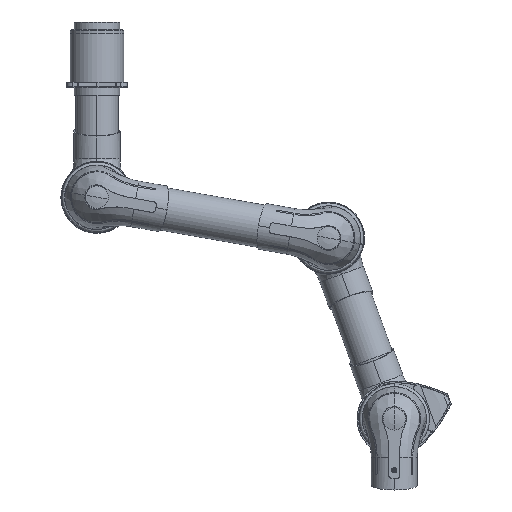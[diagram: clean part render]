
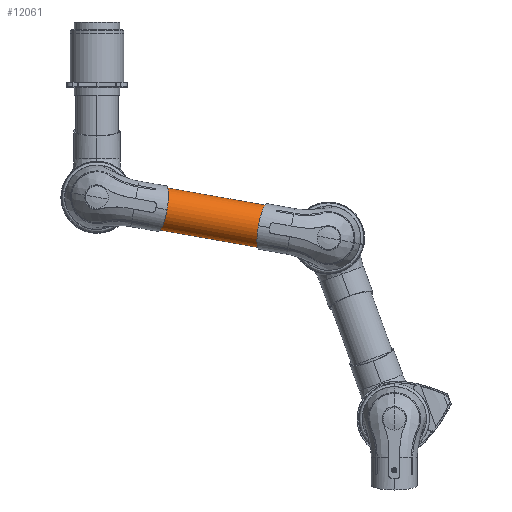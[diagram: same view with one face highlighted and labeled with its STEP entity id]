
A CAD part, top view. The second image highlights one B-rep face of the part: STEP entity #12061.
In plain terms, the highlighted cylindrical face has radius 50 mm (diameter 100 mm), a partial arc.
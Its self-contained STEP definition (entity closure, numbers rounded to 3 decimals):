
#11981=CARTESIAN_POINT('',(0.,0.,0.));
#11982=DIRECTION('',(1.,0.,0.));
#11983=DIRECTION('',(0.,1.,0.));
#11984=AXIS2_PLACEMENT_3D('',#11981,#11982,#11983);
#11989=DIRECTION('',(-1.,0.,0.));
#11990=VECTOR('',#11989,370.);
#11991=CARTESIAN_POINT('',(0.,50.,0.));
#11992=LINE('',#11991,#11990);
#11996=DIRECTION('',(-1.,0.,0.));
#11997=VECTOR('',#11996,370.);
#11998=CARTESIAN_POINT('',(0.,-50.,0.));
#11999=LINE('',#11998,#11997);
#12019=CARTESIAN_POINT('',(-370.,0.,0.));
#12020=DIRECTION('',(1.,0.,0.));
#12021=DIRECTION('',(0.,1.,0.));
#12022=AXIS2_PLACEMENT_3D('',#12019,#12020,#12021);
#12027=CARTESIAN_POINT('',(0.,50.,0.));
#12028=CARTESIAN_POINT('',(-370.,50.,0.));
#12029=VERTEX_POINT('',#12027);
#12030=VERTEX_POINT('',#12028);
#12031=CARTESIAN_POINT('',(0.,-50.,0.));
#12032=CARTESIAN_POINT('',(-370.,-50.,0.));
#12033=VERTEX_POINT('',#12031);
#12034=VERTEX_POINT('',#12032);
#12047=CARTESIAN_POINT('',(-388.5,0.,0.));
#12048=DIRECTION('',(1.,0.,0.));
#12049=DIRECTION('',(0.,-1.,0.));
#12050=AXIS2_PLACEMENT_3D('',#12047,#12048,#12049);
#12051=CYLINDRICAL_SURFACE('',#12050,50.);
#12053=ORIENTED_EDGE('',*,*,#12052,.F.);
#12054=ORIENTED_EDGE('',*,*,#12040,.T.);
#12056=ORIENTED_EDGE('',*,*,#12055,.T.);
#12058=ORIENTED_EDGE('',*,*,#12057,.F.);
#12059=EDGE_LOOP('',(#12053,#12054,#12056,#12058));
#12060=FACE_OUTER_BOUND('',#12059,.F.);
#11985=CIRCLE('',#11984,50.);
#12023=CIRCLE('',#12022,50.);
#12040=EDGE_CURVE('',#12029,#12033,#11985,.T.);
#12052=EDGE_CURVE('',#12029,#12030,#11992,.T.);
#12055=EDGE_CURVE('',#12033,#12034,#11999,.T.);
#12057=EDGE_CURVE('',#12030,#12034,#12023,.T.);
#12061=ADVANCED_FACE('',(#12060),#12051,.T.);
